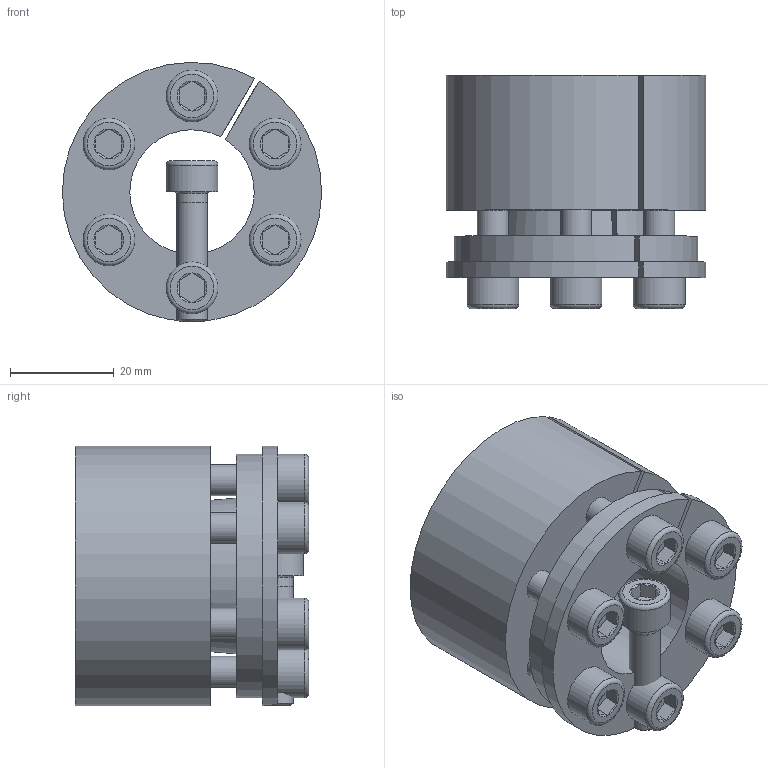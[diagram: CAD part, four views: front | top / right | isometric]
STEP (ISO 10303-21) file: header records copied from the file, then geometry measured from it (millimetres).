
FILE_DESCRIPTION( ( 'Unknown' ), '1' );
FILE_NAME( 'C:/Dokumente und Einstellungen/Sven/Desktop/homepage/cad - homepage/KBS70/KBS 70 - 24 x 50.stp', 'Unknown', ( 'Unknown' ), ( 'Unknown' ), 'XStep 1.0', 'Unknown', ' ' );
FILE_SCHEMA( ( 'automotive_design' ) );
Length unit declared in the file: millimetre
Products named in the file (3): Assem1; KBS 70 - 24 x 50; ISO EN DIN 4762 M6x25
Bounding box: 50 x 45 x 50 mm (x, y, z)
Volume: 97853.5 mm3; surface area: 42541.3 mm2
Topology: 9 solids, 9 shells, 227 faces, 467 edges, 286 vertices
Faces by surface type: plane 100, cylinder 60, cone 53, torus 14
Full cylindrical faces by diameter (mm): 5 x7, 6 x38, 10 x7
Entity records: 1694 total; most frequent: CARTESIAN_POINT 283, DIRECTION 256, ORIENTED_EDGE 190, AXIS2_PLACEMENT_3D 112, EDGE_LOOP 98, EDGE_CURVE 95, VERTEX_POINT 71, FACE_OUTER_BOUND 69
